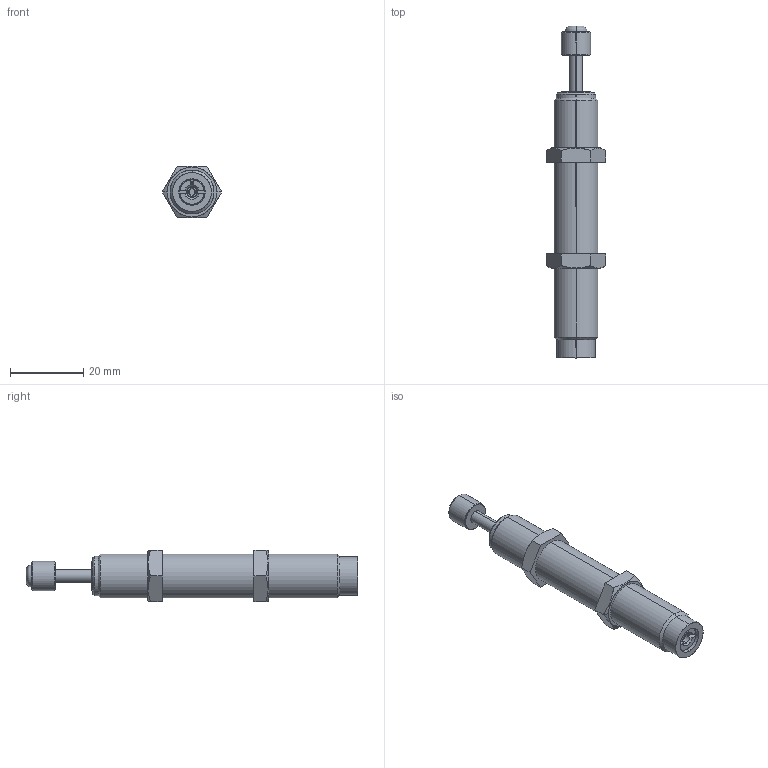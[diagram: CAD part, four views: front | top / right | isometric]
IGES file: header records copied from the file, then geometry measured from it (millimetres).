
Start section: SolidWorks IGES file using analytic representation for surfaces
Bounding box: 16.17 x 90.6 x 14 mm (x, y, z)
Surface area: 4550.1 mm2 (no closed solid volume)
Topology: 0 solids, 0 shells, 89 faces, 1156 edges, 1155 vertices
Faces by surface type: revolution 48, bspline 41
